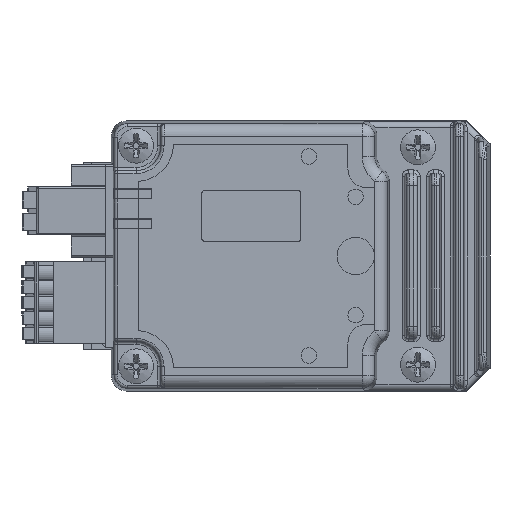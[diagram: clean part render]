
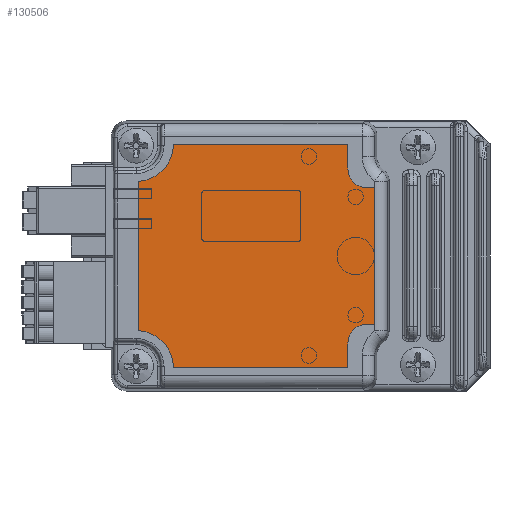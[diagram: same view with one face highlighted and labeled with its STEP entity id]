
A CAD part, left-side view. The second image highlights one B-rep face of the part: STEP entity #130506.
In plain terms, the highlighted planar face has unit normal (-1, 0, 0) as drawn and (0, 0, 1) by its records, which use the part's own axes.
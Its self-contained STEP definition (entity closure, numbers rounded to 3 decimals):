
#1217 = EDGE_CURVE ( 'NONE', #77685, #112807, #66579, .T. ) ;
#1578 = VERTEX_POINT ( 'NONE', #122971 ) ;
#1977 = ORIENTED_EDGE ( 'NONE', *, *, #126747, .F. ) ;
#2244 = EDGE_CURVE ( 'NONE', #20187, #91914, #121391, .T. ) ;
#3558 = LINE ( 'NONE', #130128, #32857 ) ;
#4581 = CARTESIAN_POINT ( 'NONE',  ( -18., 14.7, 0.1 ) ) ;
#7659 = ORIENTED_EDGE ( 'NONE', *, *, #1217, .F. ) ;
#14402 = VERTEX_POINT ( 'NONE', #114371 ) ;
#15954 = EDGE_CURVE ( 'NONE', #128460, #45250, #34281, .T. ) ;
#16283 = FACE_OUTER_BOUND ( 'NONE', #117357, .T. ) ;
#17248 = CARTESIAN_POINT ( 'NONE',  ( -18., 19., 0.1 ) ) ;
#18365 = AXIS2_PLACEMENT_3D ( 'NONE', #60276, #37987, #29356 ) ;
#20187 = VERTEX_POINT ( 'NONE', #123769 ) ;
#20888 = VECTOR ( 'NONE', #48404, 1000. ) ;
#21084 = DIRECTION ( 'NONE',  ( 0., 0., -1. ) ) ;
#25273 = ORIENTED_EDGE ( 'NONE', *, *, #38819, .F. ) ;
#26275 = VECTOR ( 'NONE', #69753, 1000. ) ;
#27113 = EDGE_CURVE ( 'NONE', #20187, #118481, #116066, .T. ) ;
#27436 = CARTESIAN_POINT ( 'NONE',  ( 11., 19., 0.1 ) ) ;
#28293 = EDGE_CURVE ( 'NONE', #38247, #112807, #3558, .T. ) ;
#28364 = CARTESIAN_POINT ( 'NONE',  ( 12.013, -19., 0.1 ) ) ;
#29021 = ORIENTED_EDGE ( 'NONE', *, *, #115269, .T. ) ;
#29203 = ORIENTED_EDGE ( 'NONE', *, *, #58770, .T. ) ;
#29356 = DIRECTION ( 'NONE',  ( 1., 0., 0. ) ) ;
#31207 = LINE ( 'NONE', #91035, #26275 ) ;
#31927 = CARTESIAN_POINT ( 'NONE',  ( 18., 14.7, 0.1 ) ) ;
#32233 = VERTEX_POINT ( 'NONE', #27436 ) ;
#32857 = VECTOR ( 'NONE', #69168, 1000. ) ;
#34281 = LINE ( 'NONE', #4581, #112223 ) ;
#37923 = CARTESIAN_POINT ( 'NONE',  ( -11., 19., 0.1 ) ) ;
#37987 = DIRECTION ( 'NONE',  ( 0., 0., 1. ) ) ;
#38247 = VERTEX_POINT ( 'NONE', #124503 ) ;
#38819 = EDGE_CURVE ( 'NONE', #32233, #91914, #88467, .T. ) ;
#39571 = DIRECTION ( 'NONE',  ( 0., 0., -1. ) ) ;
#40989 = DIRECTION ( 'NONE',  ( 1., 0., 0. ) ) ;
#42258 = CARTESIAN_POINT ( 'NONE',  ( 11., 19., 0.1 ) ) ;
#43614 = DIRECTION ( 'NONE',  ( 0., -1., 0. ) ) ;
#45250 = VERTEX_POINT ( 'NONE', #120957 ) ;
#45994 = ORIENTED_EDGE ( 'NONE', *, *, #2244, .T. ) ;
#48404 = DIRECTION ( 'NONE',  ( 0., 1., 0. ) ) ;
#48666 = VECTOR ( 'NONE', #89344, 1000. ) ;
#50946 = CARTESIAN_POINT ( 'NONE',  ( -14., 17.7, 0.1 ) ) ;
#52254 = DIRECTION ( 'NONE',  ( 0., 0., 1. ) ) ;
#53160 = CARTESIAN_POINT ( 'NONE',  ( 18., -19.4, 0.1 ) ) ;
#58770 = EDGE_CURVE ( 'NONE', #1578, #45250, #104805, .T. ) ;
#60276 = CARTESIAN_POINT ( 'NONE',  ( -18., -19.4, 0.1 ) ) ;
#60967 = VECTOR ( 'NONE', #43614, 1000. ) ;
#63758 = CARTESIAN_POINT ( 'NONE',  ( -11., 19., 0.1 ) ) ;
#63995 = EDGE_CURVE ( 'NONE', #128460, #14402, #31207, .T. ) ;
#66381 = DIRECTION ( 'NONE',  ( 1., 0., 0. ) ) ;
#66542 = CARTESIAN_POINT ( 'NONE',  ( 18., 19., 0.1 ) ) ;
#66579 = CIRCLE ( 'NONE', #80480, 6. ) ;
#66818 = CARTESIAN_POINT ( 'NONE',  ( 18., 14.7, 0.1 ) ) ;
#69168 = DIRECTION ( 'NONE',  ( 1., 0., 0. ) ) ;
#69753 = DIRECTION ( 'NONE',  ( 0., -1., 0. ) ) ;
#70324 = VECTOR ( 'NONE', #128394, 1000. ) ;
#72443 = EDGE_CURVE ( 'NONE', #1578, #98780, #76036, .T. ) ;
#73093 = DIRECTION ( 'NONE',  ( 1., 0., 0. ) ) ;
#76036 = LINE ( 'NONE', #37923, #20888 ) ;
#77685 = VERTEX_POINT ( 'NONE', #124757 ) ;
#78740 = AXIS2_PLACEMENT_3D ( 'NONE', #50946, #39571, #122299 ) ;
#80480 = AXIS2_PLACEMENT_3D ( 'NONE', #53160, #52254, #73093 ) ;
#81479 = DIRECTION ( 'NONE',  ( 0., 0., 1. ) ) ;
#84060 = AXIS2_PLACEMENT_3D ( 'NONE', #125093, #21084, #40989 ) ;
#88467 = LINE ( 'NONE', #42258, #60967 ) ;
#88500 = ORIENTED_EDGE ( 'NONE', *, *, #63995, .T. ) ;
#89344 = DIRECTION ( 'NONE',  ( -1., 0., 0. ) ) ;
#89672 = CARTESIAN_POINT ( 'NONE',  ( 0., 0., 0.1 ) ) ;
#91035 = CARTESIAN_POINT ( 'NONE',  ( -18., 19., 0.1 ) ) ;
#91914 = VERTEX_POINT ( 'NONE', #103183 ) ;
#92754 = ORIENTED_EDGE ( 'NONE', *, *, #72443, .F. ) ;
#93132 = ORIENTED_EDGE ( 'NONE', *, *, #28293, .T. ) ;
#94137 = LINE ( 'NONE', #17248, #48666 ) ;
#94556 = CARTESIAN_POINT ( 'NONE',  ( -18., 14.7, 0.1 ) ) ;
#95623 = ORIENTED_EDGE ( 'NONE', *, *, #15954, .F. ) ;
#97979 = LINE ( 'NONE', #66542, #70324 ) ;
#98780 = VERTEX_POINT ( 'NONE', #63758 ) ;
#100220 = DIRECTION ( 'NONE',  ( 1., 0., 0. ) ) ;
#101705 = EDGE_CURVE ( 'NONE', #77685, #118481, #97979, .T. ) ;
#103062 = VECTOR ( 'NONE', #66381, 1000. ) ;
#103183 = CARTESIAN_POINT ( 'NONE',  ( 11., 17.7, 0.1 ) ) ;
#104805 = CIRCLE ( 'NONE', #78740, 3. ) ;
#112223 = VECTOR ( 'NONE', #129931, 1000. ) ;
#112430 = PLANE ( 'NONE',  #130369 ) ;
#112807 = VERTEX_POINT ( 'NONE', #28364 ) ;
#114212 = ORIENTED_EDGE ( 'NONE', *, *, #101705, .T. ) ;
#114371 = CARTESIAN_POINT ( 'NONE',  ( -18., -13.4, 0.1 ) ) ;
#115269 = EDGE_CURVE ( 'NONE', #32233, #98780, #94137, .T. ) ;
#115518 = CIRCLE ( 'NONE', #18365, 6. ) ;
#116066 = LINE ( 'NONE', #66818, #103062 ) ;
#117357 = EDGE_LOOP ( 'NONE', ( #7659, #114212, #125731, #45994, #25273, #29021, #92754, #29203, #95623, #88500, #1977, #93132 ) ) ;
#118481 = VERTEX_POINT ( 'NONE', #31927 ) ;
#120957 = CARTESIAN_POINT ( 'NONE',  ( -14., 14.7, 0.1 ) ) ;
#121391 = CIRCLE ( 'NONE', #84060, 3. ) ;
#122299 = DIRECTION ( 'NONE',  ( 1., 0., 0. ) ) ;
#122971 = CARTESIAN_POINT ( 'NONE',  ( -11., 17.7, 0.1 ) ) ;
#123769 = CARTESIAN_POINT ( 'NONE',  ( 14., 14.7, 0.1 ) ) ;
#124503 = CARTESIAN_POINT ( 'NONE',  ( -12.013, -19., 0.1 ) ) ;
#124757 = CARTESIAN_POINT ( 'NONE',  ( 18., -13.4, 0.1 ) ) ;
#125093 = CARTESIAN_POINT ( 'NONE',  ( 14., 17.7, 0.1 ) ) ;
#125731 = ORIENTED_EDGE ( 'NONE', *, *, #27113, .F. ) ;
#126747 = EDGE_CURVE ( 'NONE', #38247, #14402, #115518, .T. ) ;
#128394 = DIRECTION ( 'NONE',  ( 0., 1., 0. ) ) ;
#128460 = VERTEX_POINT ( 'NONE', #94556 ) ;
#129931 = DIRECTION ( 'NONE',  ( 1., 0., 0. ) ) ;
#130128 = CARTESIAN_POINT ( 'NONE',  ( -18., -19., 0.1 ) ) ;
#130369 = AXIS2_PLACEMENT_3D ( 'NONE', #89672, #81479, #100220 ) ;
#130506 = ADVANCED_FACE ( 'NONE', ( #16283 ), #112430, .T. ) ;
